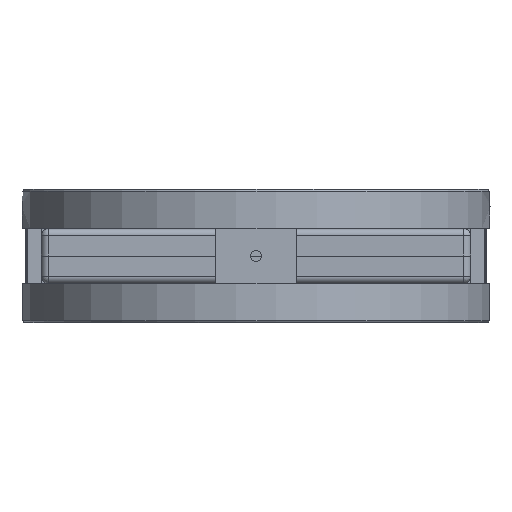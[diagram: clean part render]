
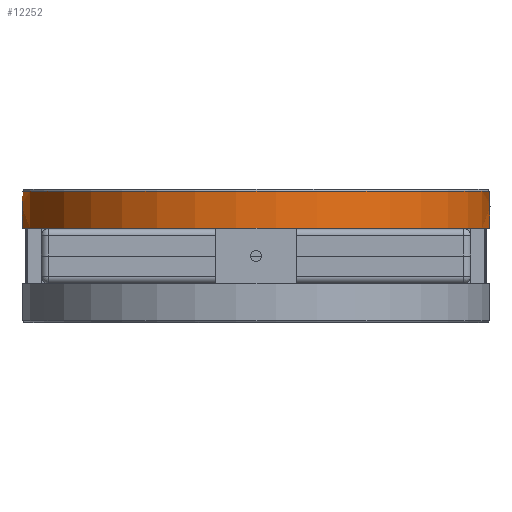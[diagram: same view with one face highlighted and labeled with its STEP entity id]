
A CAD part, front view. The second image highlights one B-rep face of the part: STEP entity #12252.
In plain terms, the highlighted cylindrical face has radius 175 mm (diameter 350 mm), a full revolution.
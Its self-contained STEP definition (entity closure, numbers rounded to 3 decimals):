
#3371=ELLIPSE('',#32937,350.,175.);
#3372=ELLIPSE('',#32938,350.,175.);
#3373=ELLIPSE('',#32942,350.,175.);
#3374=ELLIPSE('',#32943,350.,175.);
#12252=ADVANCED_FACE('BCT_REF_41838',(#13597,#13598,#13599,#13600),#12749,
 .T.);
#12749=CYLINDRICAL_SURFACE('',#32945,175.);
#13597=FACE_BOUND('',#15744,.T.);
#13598=FACE_BOUND('',#15745,.T.);
#13599=FACE_BOUND('',#15746,.T.);
#13600=FACE_BOUND('',#15747,.T.);
#15744=EDGE_LOOP('',(#23050,#23051,#23052));
#15745=EDGE_LOOP('',(#23053));
#15746=EDGE_LOOP('',(#23054));
#15747=EDGE_LOOP('',(#23055,#23056,#23057));
#23050=ORIENTED_EDGE('',*,*,#29424,.T.);
#23051=ORIENTED_EDGE('',*,*,#29425,.T.);
#23052=ORIENTED_EDGE('',*,*,#29426,.T.);
#23053=ORIENTED_EDGE('',*,*,#29427,.T.);
#23054=ORIENTED_EDGE('',*,*,#29428,.F.);
#23055=ORIENTED_EDGE('',*,*,#29429,.F.);
#23056=ORIENTED_EDGE('',*,*,#29430,.F.);
#23057=ORIENTED_EDGE('',*,*,#29431,.F.);
#25740=VERTEX_POINT('',#58539);
#25741=VERTEX_POINT('',#58540);
#25742=VERTEX_POINT('',#58542);
#25743=VERTEX_POINT('',#58545);
#25744=VERTEX_POINT('',#58547);
#25745=VERTEX_POINT('',#58549);
#25746=VERTEX_POINT('',#58550);
#25747=VERTEX_POINT('',#58552);
#29424=EDGE_CURVE('',#25740,#25741,#3371,.T.);
#29425=EDGE_CURVE('',#25741,#25742,#3372,.T.);
#29426=EDGE_CURVE('',#25742,#25740,#30483,.T.);
#29427=EDGE_CURVE('',#25743,#25743,#30484,.T.);
#29428=EDGE_CURVE('',#25744,#25744,#30485,.T.);
#29429=EDGE_CURVE('',#25745,#25746,#3373,.T.);
#29430=EDGE_CURVE('',#25747,#25745,#3374,.T.);
#29431=EDGE_CURVE('',#25746,#25747,#30486,.T.);
#30483=CIRCLE('',#32939,175.);
#30484=CIRCLE('',#32940,175.);
#30485=CIRCLE('',#32941,175.);
#30486=CIRCLE('',#32944,175.);
#32937=AXIS2_PLACEMENT_3D('',#58538,#39825,#39826);
#32938=AXIS2_PLACEMENT_3D('',#58541,#39827,#39828);
#32939=AXIS2_PLACEMENT_3D('',#58543,#39829,#39830);
#32940=AXIS2_PLACEMENT_3D('',#58544,#39831,#39832);
#32941=AXIS2_PLACEMENT_3D('',#58546,#39833,#39834);
#32942=AXIS2_PLACEMENT_3D('',#58548,#39835,#39836);
#32943=AXIS2_PLACEMENT_3D('',#58551,#39837,#39838);
#32944=AXIS2_PLACEMENT_3D('',#58553,#39839,#39840);
#32945=AXIS2_PLACEMENT_3D('',#58554,#39841,#39842);
#39825=DIRECTION('',(-0.5,0.,0.866));
#39826=DIRECTION('',(-0.866,0.,-0.5));
#39827=DIRECTION('',(-0.5,0.,-0.866));
#39828=DIRECTION('',(-0.866,0.,0.5));
#39829=DIRECTION('',(1.,0.,0.));
#39830=DIRECTION('',(0.,0.,-1.));
#39831=DIRECTION('',(-1.,0.,0.));
#39832=DIRECTION('',(0.,-0.259,0.966));
#39833=DIRECTION('',(-1.,0.,0.));
#39834=DIRECTION('',(0.,-0.259,0.966));
#39835=DIRECTION('',(0.5,0.,0.866));
#39836=DIRECTION('',(-0.866,0.,0.5));
#39837=DIRECTION('',(0.5,0.,-0.866));
#39838=DIRECTION('',(-0.866,0.,-0.5));
#39839=DIRECTION('',(-1.,0.,0.));
#39840=DIRECTION('',(0.,0.,1.));
#39841=DIRECTION('',(-1.,0.,0.));
#39842=DIRECTION('',(0.,-0.259,0.966));
#58538=CARTESIAN_POINT('',(36.9,0.,526.));
#58539=CARTESIAN_POINT('',(40.9,174.985,528.309));
#58540=CARTESIAN_POINT('',(36.9,175.,526.));
#58541=CARTESIAN_POINT('',(36.9,0.,526.));
#58542=CARTESIAN_POINT('',(40.9,174.985,523.691));
#58543=CARTESIAN_POINT('',(40.9,0.,526.));
#58544=CARTESIAN_POINT('',(48.4,0.,526.));
#58545=CARTESIAN_POINT('',(48.4,-45.293,695.037));
#58546=CARTESIAN_POINT('',(20.6,0.,526.));
#58547=CARTESIAN_POINT('',(20.6,-45.293,695.037));
#58548=CARTESIAN_POINT('',(36.9,0.,526.));
#58549=CARTESIAN_POINT('',(36.9,-175.,526.));
#58550=CARTESIAN_POINT('',(40.9,-174.985,523.691));
#58551=CARTESIAN_POINT('',(36.9,0.,526.));
#58552=CARTESIAN_POINT('',(40.9,-174.985,528.309));
#58553=CARTESIAN_POINT('',(40.9,0.,526.));
#58554=CARTESIAN_POINT('',(16.8,0.,526.));
